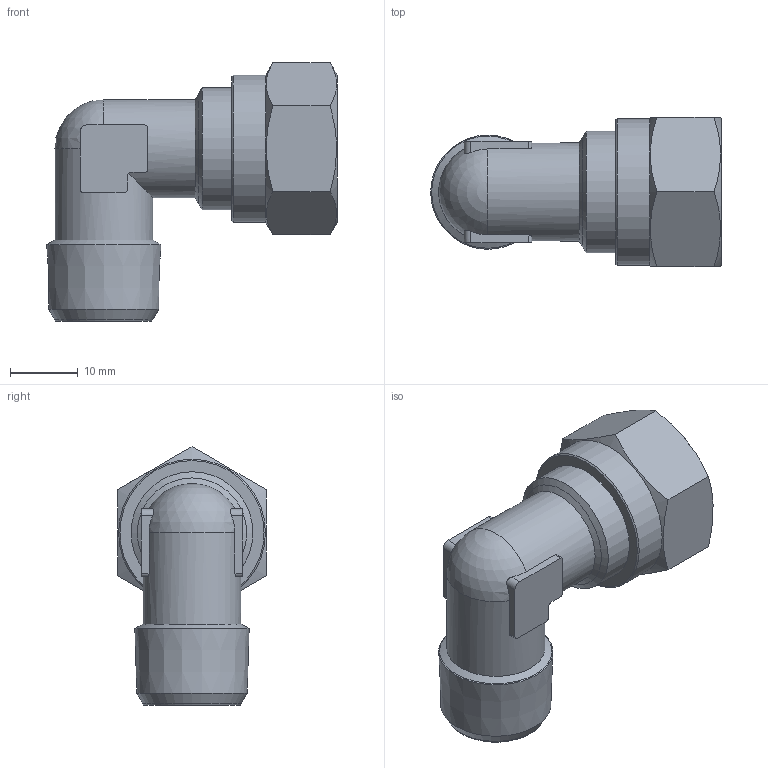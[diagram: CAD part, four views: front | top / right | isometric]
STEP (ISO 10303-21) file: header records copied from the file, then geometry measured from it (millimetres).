
FILE_DESCRIPTION(('Bauteilbeschreibung','HiCAD-Model','HiCAD-STEP-TRANSLATION','Bauteilbeschreibung'),'2;1');
FILE_NAME('B:/ABGLEICH/ZEICHNUNGEN/STEP FÜR INTERNET/STEP/205/92810_205_12_3-8.STP','2011-11-25T09:50:38+00:00',('Konstrukteur'),('Konstrukteur Firma GmbH'),' HiCAD neXt 2008, Step 3.1.1401.2J ','HiCAD neXt 2008','confidential');
FILE_SCHEMA(('AUTOMOTIVE_DESIGN { 1 2 10303 214 0 1 1 1 }'));
Length unit declared in the file: millimetre
Products named in the file (8): A2810_205_12_3_8; A6805; A68050; DIN 13_M18X1_5; A2809; A28090; R 3_8; DIN0130M18X105
Assembly tree (7 placements, depth 3):
  A2810_205_12_3_8
    A6805
    A68050
      DIN 13_M18X1_5
    A2809
    A28090
      R 3_8
      DIN0130M18X105
Bounding box: 42.94 x 22 x 38.2 mm (x, y, z)
Volume: 8395.7 mm3; surface area: 10072.7 mm2
Topology: 5 solids, 5 shells, 88 faces, 214 edges, 135 vertices
Faces by surface type: cylinder 31, plane 30, cone 26, sphere 1
Full cylindrical faces by diameter (mm): 10 x2, 11 x1, 12 x2, 14.5 x2, 16.16 x4, 18 x3, 21.7 x1
Entity records: 5140 total; most frequent: CARTESIAN_POINT 2386, DIRECTION 410, ORIENTED_EDGE 330, AXIS2_PLACEMENT_3D 180, EDGE_CURVE 165, COLOUR_RGB 145, PRESENTATION_STYLE_ASSIGNMENT 145, CURVE_STYLE 140
